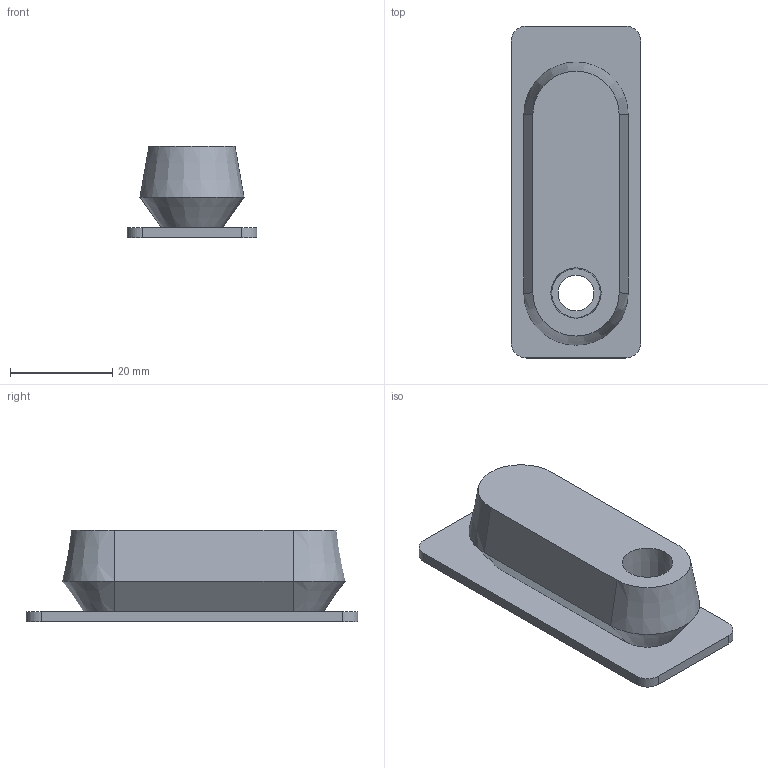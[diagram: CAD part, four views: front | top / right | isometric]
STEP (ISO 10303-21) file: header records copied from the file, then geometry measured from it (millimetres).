
FILE_DESCRIPTION(/* description */ (''),/* implementation_level */ '2;1');
FILE_NAME(/* name */ 'Air Intake Tubing Clip.step',/* time_stamp */ '2022-12-05T23:14:25-05:00',/* author */ (''),/* organization */ (''),/* preprocessor_version */ 'ST-DEVELOPER v19.2',/* originating_system */ 'Autodesk Translation Framework v11.17.0.187',/* authorisation */ '');
FILE_SCHEMA (('AUTOMOTIVE_DESIGN { 1 0 10303 214 3 1 1 }'));
Length unit declared in the file: millimetre
Products named in the file (1): Intake Plug
Bounding box: 25.4 x 65 x 18 mm (x, y, z)
Volume: 15865.7 mm3; surface area: 6511 mm2
Topology: 1 solids, 1 shells, 22 faces, 50 edges, 32 vertices
Faces by surface type: plane 12, cone 6, cylinder 4
Entity records: 664 total; most frequent: DIRECTION 114, CARTESIAN_POINT 105, ORIENTED_EDGE 100, EDGE_CURVE 50, AXIS2_PLACEMENT_3D 41, LINE 32, VECTOR 32, VERTEX_POINT 32
